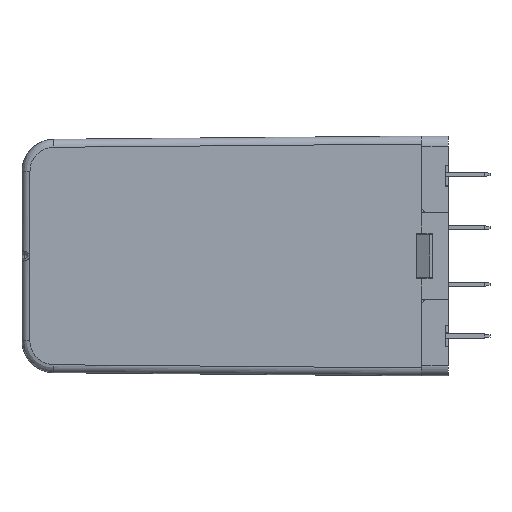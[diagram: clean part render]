
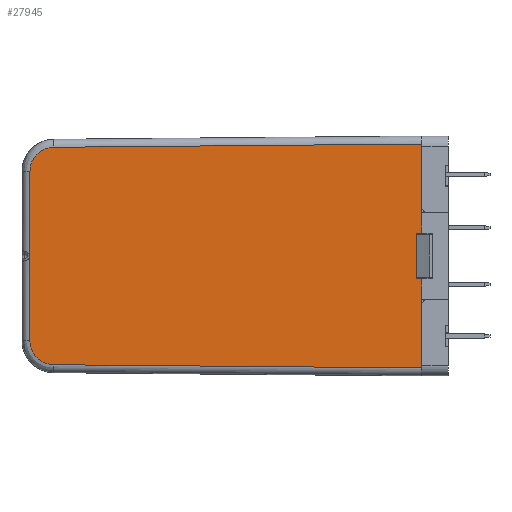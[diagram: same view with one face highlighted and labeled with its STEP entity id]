
A CAD part, left-side view. The second image highlights one B-rep face of the part: STEP entity #27945.
In plain terms, the highlighted planar face has unit normal (-1, 0.009, 0).
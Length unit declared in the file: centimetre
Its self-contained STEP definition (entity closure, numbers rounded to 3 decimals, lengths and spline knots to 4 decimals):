
#102=ELLIPSE('',#29955,0.45,0.45);
#104=ELLIPSE('',#29960,0.45,0.45);
#1245=PLANE('',#29967);
#2517=FACE_OUTER_BOUND('',#4013,.T.);
#4013=EDGE_LOOP('',(#24840,#24841,#24842,#24843,#24844,#24845,#24846,#24847,
#24848,#24849,#24850,#24851));
#7596=LINE('',#44061,#10641);
#7615=LINE('',#44103,#10660);
#7639=LINE('',#44146,#10684);
#7643=LINE('',#44153,#10688);
#7752=LINE('',#45106,#10797);
#7756=LINE('',#45112,#10801);
#7760=LINE('',#45118,#10805);
#7768=LINE('',#45211,#10813);
#7769=LINE('',#45249,#10814);
#7770=LINE('',#45286,#10815);
#10641=VECTOR('',#36368,1.29);
#10660=VECTOR('',#36405,1.29);
#10684=VECTOR('',#36443,0.38);
#10688=VECTOR('',#36447,0.38);
#10797=VECTOR('',#36870,0.86);
#10801=VECTOR('',#36878,0.105);
#10805=VECTOR('',#36886,0.105);
#10813=VECTOR('',#36928,6.9058);
#10814=VECTOR('',#36939,3.1795);
#10815=VECTOR('',#36948,6.9058);
#13176=VERTEX_POINT('',#44058);
#13177=VERTEX_POINT('',#44060);
#13190=VERTEX_POINT('',#44100);
#13191=VERTEX_POINT('',#44102);
#13203=VERTEX_POINT('',#44145);
#13206=VERTEX_POINT('',#44151);
#13325=VERTEX_POINT('',#45103);
#13326=VERTEX_POINT('',#45105);
#13334=VERTEX_POINT('',#45209);
#13335=VERTEX_POINT('',#45242);
#13336=VERTEX_POINT('',#45247);
#13338=VERTEX_POINT('',#45281);
#16852=EDGE_CURVE('',#13176,#13177,#7596,.T.);
#16874=EDGE_CURVE('',#13190,#13191,#7615,.T.);
#16898=EDGE_CURVE('',#13191,#13203,#7639,.T.);
#16902=EDGE_CURVE('',#13206,#13176,#7643,.T.);
#17107=EDGE_CURVE('',#13326,#13325,#7752,.T.);
#17111=EDGE_CURVE('',#13206,#13326,#7756,.T.);
#17115=EDGE_CURVE('',#13325,#13203,#7760,.T.);
#17132=EDGE_CURVE('',#13334,#13190,#7768,.T.);
#17134=EDGE_CURVE('',#13335,#13334,#102,.T.);
#17137=EDGE_CURVE('',#13336,#13335,#7769,.T.);
#17139=EDGE_CURVE('',#13338,#13336,#104,.T.);
#17141=EDGE_CURVE('',#13177,#13338,#7770,.T.);
#24840=ORIENTED_EDGE('',*,*,#17115,.T.);
#24841=ORIENTED_EDGE('',*,*,#16898,.F.);
#24842=ORIENTED_EDGE('',*,*,#16874,.F.);
#24843=ORIENTED_EDGE('',*,*,#17132,.F.);
#24844=ORIENTED_EDGE('',*,*,#17134,.F.);
#24845=ORIENTED_EDGE('',*,*,#17137,.F.);
#24846=ORIENTED_EDGE('',*,*,#17139,.F.);
#24847=ORIENTED_EDGE('',*,*,#17141,.F.);
#24848=ORIENTED_EDGE('',*,*,#16852,.F.);
#24849=ORIENTED_EDGE('',*,*,#16902,.F.);
#24850=ORIENTED_EDGE('',*,*,#17111,.T.);
#24851=ORIENTED_EDGE('',*,*,#17107,.T.);
#27945=ADVANCED_FACE('',(#2517),#1245,.T.);
#29955=AXIS2_PLACEMENT_3D('',#45244,#36931,#36932);
#29960=AXIS2_PLACEMENT_3D('',#45283,#36942,#36943);
#29967=AXIS2_PLACEMENT_3D('',#45294,#36960,#36961);
#36368=DIRECTION('',(0.,0.,-1.));
#36405=DIRECTION('',(0.,0.,-1.));
#36443=DIRECTION('',(0.,0.,-1.));
#36447=DIRECTION('',(0.,0.,-1.));
#36870=DIRECTION('',(0.,0.,1.));
#36878=DIRECTION('',(0.009,1.,0.));
#36886=DIRECTION('',(-0.009,-1.,0.));
#36928=DIRECTION('',(-0.009,-1.,0.009));
#36931=DIRECTION('center_axis',(1.,-0.009,
0.));
#36932=DIRECTION('ref_axis',(0.009,1.,0.));
#36939=DIRECTION('',(0.,0.,1.));
#36942=DIRECTION('center_axis',(1.,-0.009,
0.));
#36943=DIRECTION('ref_axis',(0.009,1.,0.));
#36948=DIRECTION('',(0.009,1.,0.009));
#36960=DIRECTION('center_axis',(-1.,0.009,
0.));
#36961=DIRECTION('ref_axis',(0.,0.,
1.));
#44058=CARTESIAN_POINT('',(0.1167,-6.8119,-0.657));
#44060=CARTESIAN_POINT('',(0.1167,-6.8119,-1.947));
#44061=CARTESIAN_POINT('',(0.1167,-6.8119,2.403));
#44100=CARTESIAN_POINT('',(0.1167,-6.8119,2.253));
#44102=CARTESIAN_POINT('',(0.1167,-6.8119,0.963));
#44103=CARTESIAN_POINT('',(0.1167,-6.8119,2.403));
#44145=CARTESIAN_POINT('',(0.1167,-6.8119,0.583));
#44146=CARTESIAN_POINT('',(0.1167,-6.8119,2.403));
#44151=CARTESIAN_POINT('',(0.1167,-6.8119,-0.277));
#44153=CARTESIAN_POINT('',(0.1167,-6.8119,2.403));
#45103=CARTESIAN_POINT('',(0.1176,-6.7069,0.583));
#45105=CARTESIAN_POINT('',(0.1176,-6.7069,-0.277));
#45106=CARTESIAN_POINT('',(0.1176,-6.7069,1.493));
#45112=CARTESIAN_POINT('',(0.1172,-6.7594,-0.277));
#45118=CARTESIAN_POINT('',(0.1159,-6.9094,0.583));
#45209=CARTESIAN_POINT('',(0.177,0.0933,2.1927));
#45211=CARTESIAN_POINT('',(0.1169,-6.7936,2.2528));
#45242=CARTESIAN_POINT('',(0.1809,0.5394,1.7427));
#45244=CARTESIAN_POINT('Origin',(0.1769,0.0894,1.7427));
#45247=CARTESIAN_POINT('',(0.1809,0.5394,-1.4368));
#45249=CARTESIAN_POINT('',(0.1809,0.5394,1.278));
#45281=CARTESIAN_POINT('',(0.177,0.0933,-1.8868));
#45283=CARTESIAN_POINT('Origin',(0.1769,0.0894,-1.4368));
#45286=CARTESIAN_POINT('',(0.1169,-6.7936,-1.9469));
#45294=CARTESIAN_POINT('Origin',(0.1167,-6.8119,2.403));
